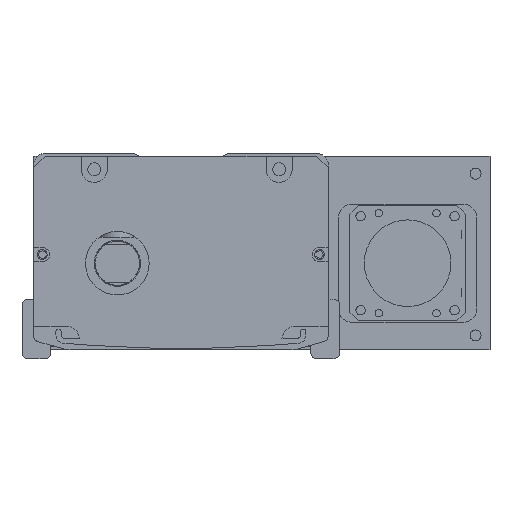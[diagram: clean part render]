
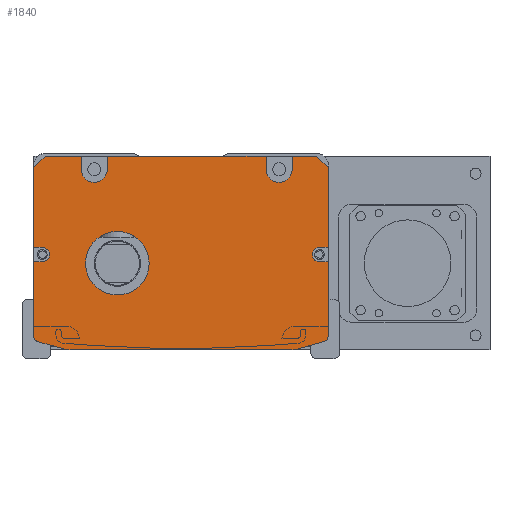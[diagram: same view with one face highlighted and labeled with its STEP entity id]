
A CAD part, front view. The second image highlights one B-rep face of the part: STEP entity #1840.
In plain terms, the highlighted planar face has unit normal (0, -1, 0).
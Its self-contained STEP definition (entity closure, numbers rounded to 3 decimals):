
#1840=ADVANCED_FACE('',(#4408,#4409),#2389,.F.);
#2389=PLANE('',#13989);
#2926=LINE('',#26900,#3723);
#2930=LINE('',#26909,#3727);
#2938=LINE('',#26936,#3735);
#2942=LINE('',#26945,#3739);
#2949=LINE('',#26961,#3746);
#2951=LINE('',#26966,#3748);
#2966=LINE('',#27009,#3763);
#2968=LINE('',#27017,#3765);
#2971=LINE('',#27021,#3768);
#2992=LINE('',#27089,#3789);
#2996=LINE('',#27098,#3793);
#3000=LINE('',#27107,#3797);
#3004=LINE('',#27116,#3801);
#3008=LINE('',#27132,#3805);
#3012=LINE('',#27138,#3809);
#3013=LINE('',#27139,#3810);
#3015=LINE('',#27155,#3812);
#3016=LINE('',#27156,#3813);
#3017=LINE('',#27157,#3814);
#3018=LINE('',#27158,#3815);
#3723=VECTOR('',#16511,1.);
#3727=VECTOR('',#16517,1.);
#3735=VECTOR('',#16539,1.);
#3739=VECTOR('',#16545,1.);
#3746=VECTOR('',#16554,1.);
#3748=VECTOR('',#16558,1.);
#3763=VECTOR('',#16597,1.);
#3765=VECTOR('',#16607,1.);
#3768=VECTOR('',#16612,1.);
#3789=VECTOR('',#16687,1.);
#3793=VECTOR('',#16693,1.);
#3797=VECTOR('',#16699,1.);
#3801=VECTOR('',#16705,1.);
#3805=VECTOR('',#16723,1.);
#3809=VECTOR('',#16727,1.);
#3810=VECTOR('',#16728,1.);
#3812=VECTOR('',#16752,1.);
#3813=VECTOR('',#16753,1.);
#3814=VECTOR('',#16754,1.);
#3815=VECTOR('',#16755,1.);
#4408=FACE_BOUND('',#5302,.T.);
#4409=FACE_BOUND('',#5303,.T.);
#5302=EDGE_LOOP('',(#7783,#7784,#7785,#7786,#7787,#7788,#7789,#7790,#7791,
#7792,#7793,#7794,#7795,#7796,#7797,#7798,#7799,#7800,#7801,#7802,#7803,
#7804,#7805,#7806,#7807,#7808,#7809,#7810));
#5303=EDGE_LOOP('',(#7811));
#7783=ORIENTED_EDGE('',*,*,#11792,.T.);
#7784=ORIENTED_EDGE('',*,*,#11669,.T.);
#7785=ORIENTED_EDGE('',*,*,#11779,.T.);
#7786=ORIENTED_EDGE('',*,*,#11696,.F.);
#7787=ORIENTED_EDGE('',*,*,#11733,.T.);
#7788=ORIENTED_EDGE('',*,*,#11698,.F.);
#7789=ORIENTED_EDGE('',*,*,#11784,.T.);
#7790=ORIENTED_EDGE('',*,*,#11685,.F.);
#7791=ORIENTED_EDGE('',*,*,#11730,.T.);
#7792=ORIENTED_EDGE('',*,*,#11689,.F.);
#7793=ORIENTED_EDGE('',*,*,#11783,.T.);
#7794=ORIENTED_EDGE('',*,*,#11673,.T.);
#7795=ORIENTED_EDGE('',*,*,#11793,.T.);
#7796=ORIENTED_EDGE('',*,*,#11763,.T.);
#7797=ORIENTED_EDGE('',*,*,#11791,.T.);
#7798=ORIENTED_EDGE('',*,*,#11759,.T.);
#7799=ORIENTED_EDGE('',*,*,#11794,.T.);
#7800=ORIENTED_EDGE('',*,*,#11716,.T.);
#7801=ORIENTED_EDGE('',*,*,#11719,.T.);
#7802=ORIENTED_EDGE('',*,*,#11722,.T.);
#7803=ORIENTED_EDGE('',*,*,#11723,.T.);
#7804=ORIENTED_EDGE('',*,*,#11679,.T.);
#7805=ORIENTED_EDGE('',*,*,#11726,.T.);
#7806=ORIENTED_EDGE('',*,*,#11681,.T.);
#7807=ORIENTED_EDGE('',*,*,#11795,.T.);
#7808=ORIENTED_EDGE('',*,*,#11771,.T.);
#7809=ORIENTED_EDGE('',*,*,#11790,.T.);
#7810=ORIENTED_EDGE('',*,*,#11767,.T.);
#7811=ORIENTED_EDGE('',*,*,#11735,.T.);
#10121=VERTEX_POINT('',#26901);
#10122=VERTEX_POINT('',#26902);
#10125=VERTEX_POINT('',#26910);
#10126=VERTEX_POINT('',#26911);
#10131=VERTEX_POINT('',#26922);
#10132=VERTEX_POINT('',#26924);
#10133=VERTEX_POINT('',#26928);
#10134=VERTEX_POINT('',#26929);
#10137=VERTEX_POINT('',#26937);
#10138=VERTEX_POINT('',#26938);
#10141=VERTEX_POINT('',#26946);
#10142=VERTEX_POINT('',#26947);
#10146=VERTEX_POINT('',#26956);
#10148=VERTEX_POINT('',#26960);
#10149=VERTEX_POINT('',#26964);
#10151=VERTEX_POINT('',#26967);
#10161=VERTEX_POINT('',#26997);
#10164=VERTEX_POINT('',#27002);
#10166=VERTEX_POINT('',#27008);
#10168=VERTEX_POINT('',#27014);
#10171=VERTEX_POINT('',#27040);
#10187=VERTEX_POINT('',#27087);
#10189=VERTEX_POINT('',#27090);
#10192=VERTEX_POINT('',#27097);
#10193=VERTEX_POINT('',#27099);
#10195=VERTEX_POINT('',#27105);
#10197=VERTEX_POINT('',#27108);
#10200=VERTEX_POINT('',#27115);
#10201=VERTEX_POINT('',#27117);
#11669=EDGE_CURVE('',#10121,#10122,#2926,.T.);
#11673=EDGE_CURVE('',#10125,#10126,#2930,.T.);
#11679=EDGE_CURVE('',#10132,#10131,#12852,.T.);
#11681=EDGE_CURVE('',#10133,#10134,#12853,.T.);
#11685=EDGE_CURVE('',#10137,#10138,#2938,.T.);
#11689=EDGE_CURVE('',#10141,#10142,#2942,.T.);
#11696=EDGE_CURVE('',#10148,#10146,#2949,.T.);
#11698=EDGE_CURVE('',#10149,#10151,#2951,.T.);
#11716=EDGE_CURVE('',#10161,#10164,#12860,.T.);
#11719=EDGE_CURVE('',#10164,#10166,#2966,.T.);
#11722=EDGE_CURVE('',#10166,#10168,#12862,.T.);
#11723=EDGE_CURVE('',#10168,#10132,#2968,.T.);
#11726=EDGE_CURVE('',#10131,#10133,#2971,.T.);
#11730=EDGE_CURVE('',#10137,#10142,#12865,.T.);
#11733=EDGE_CURVE('',#10148,#10151,#12868,.T.);
#11735=EDGE_CURVE('',#10171,#10171,#12869,.T.);
#11759=EDGE_CURVE('',#10189,#10187,#2992,.T.);
#11763=EDGE_CURVE('',#10193,#10192,#2996,.T.);
#11767=EDGE_CURVE('',#10197,#10195,#3000,.T.);
#11771=EDGE_CURVE('',#10201,#10200,#3004,.T.);
#11779=EDGE_CURVE('',#10122,#10146,#3008,.T.);
#11783=EDGE_CURVE('',#10141,#10125,#3012,.T.);
#11784=EDGE_CURVE('',#10149,#10138,#3013,.T.);
#11790=EDGE_CURVE('',#10200,#10197,#12883,.T.);
#11791=EDGE_CURVE('',#10192,#10189,#12884,.T.);
#11792=EDGE_CURVE('',#10195,#10121,#3015,.T.);
#11793=EDGE_CURVE('',#10126,#10193,#3016,.T.);
#11794=EDGE_CURVE('',#10187,#10161,#3017,.T.);
#11795=EDGE_CURVE('',#10134,#10201,#3018,.T.);
#12852=CIRCLE('',#13916,10.);
#12853=CIRCLE('',#13918,2.);
#12860=CIRCLE('',#13934,2.);
#12862=CIRCLE('',#13938,10.);
#12865=CIRCLE('',#13946,4.5);
#12868=CIRCLE('',#13951,4.5);
#12869=CIRCLE('',#13954,11.);
#12883=CIRCLE('',#13985,2.5);
#12884=CIRCLE('',#13987,2.5);
#13916=AXIS2_PLACEMENT_3D('',#26923,#16526,#16527);
#13918=AXIS2_PLACEMENT_3D('',#26927,#16531,#16532);
#13934=AXIS2_PLACEMENT_3D('',#27003,#16591,#16592);
#13938=AXIS2_PLACEMENT_3D('',#27015,#16603,#16604);
#13946=AXIS2_PLACEMENT_3D('',#27029,#16624,#16625);
#13951=AXIS2_PLACEMENT_3D('',#27035,#16634,#16635);
#13954=AXIS2_PLACEMENT_3D('',#27039,#16641,#16642);
#13985=AXIS2_PLACEMENT_3D('',#27151,#16744,#16745);
#13987=AXIS2_PLACEMENT_3D('',#27153,#16748,#16749);
#13989=AXIS2_PLACEMENT_3D('',#27159,#16756,#16757);
#16511=DIRECTION('',(-0.707,0.,0.707));
#16517=DIRECTION('',(-0.707,0.,-0.707));
#16526=DIRECTION('',(0.,-1.,0.));
#16527=DIRECTION('',(0.,0.,-1.));
#16531=DIRECTION('',(0.,-1.,0.));
#16532=DIRECTION('',(0.,0.,-1.));
#16539=DIRECTION('',(0.,0.,1.));
#16545=DIRECTION('',(0.,0.,-1.));
#16554=DIRECTION('',(0.,0.,1.));
#16558=DIRECTION('',(0.,0.,-1.));
#16591=DIRECTION('',(0.,-1.,0.));
#16592=DIRECTION('',(0.,0.,1.));
#16597=DIRECTION('',(0.963,0.,-0.269));
#16603=DIRECTION('',(0.,-1.,0.));
#16604=DIRECTION('',(0.,0.,1.));
#16607=DIRECTION('',(1.,0.,0.));
#16612=DIRECTION('',(0.963,0.,0.269));
#16624=DIRECTION('',(0.,1.,0.));
#16625=DIRECTION('',(0.,0.,1.));
#16634=DIRECTION('',(0.,1.,0.));
#16635=DIRECTION('',(0.,0.,1.));
#16641=DIRECTION('',(0.,1.,0.));
#16642=DIRECTION('',(0.,0.,1.));
#16687=DIRECTION('',(-1.,0.,0.));
#16693=DIRECTION('',(1.,0.,0.));
#16699=DIRECTION('',(1.,0.,0.));
#16705=DIRECTION('',(-1.,0.,0.));
#16723=DIRECTION('',(-1.,0.,0.));
#16727=DIRECTION('',(-1.,0.,0.));
#16728=DIRECTION('',(-1.,0.,0.));
#16744=DIRECTION('',(0.,1.,0.));
#16745=DIRECTION('',(0.,0.,1.));
#16748=DIRECTION('',(0.,1.,0.));
#16749=DIRECTION('',(0.,0.,1.));
#16752=DIRECTION('',(0.,0.,1.));
#16753=DIRECTION('',(0.,0.,-1.));
#16754=DIRECTION('',(0.,0.,-1.));
#16755=DIRECTION('',(0.,0.,1.));
#16756=DIRECTION('',(0.,1.,0.));
#16757=DIRECTION('',(-1.,0.,0.));
#26900=CARTESIAN_POINT('',(43.808,-367.5,-1.));
#26901=CARTESIAN_POINT('',(47.808,-367.5,-5.));
#26902=CARTESIAN_POINT('',(43.808,-367.5,-1.));
#26909=CARTESIAN_POINT('',(-54.192,-367.5,-5.));
#26910=CARTESIAN_POINT('',(-50.192,-367.5,-1.));
#26911=CARTESIAN_POINT('',(-54.192,-367.5,-5.));
#26922=CARTESIAN_POINT('',(37.424,-367.5,-67.631));
#26923=CARTESIAN_POINT('',(34.733,-367.5,-58.));
#26924=CARTESIAN_POINT('',(34.733,-367.5,-68.));
#26927=CARTESIAN_POINT('',(45.808,-367.5,-63.212));
#26928=CARTESIAN_POINT('',(46.346,-367.5,-65.138));
#26929=CARTESIAN_POINT('',(47.808,-367.5,-63.212));
#26936=CARTESIAN_POINT('',(-28.692,-367.5,-3.5));
#26937=CARTESIAN_POINT('',(-28.692,-367.5,-5.5));
#26938=CARTESIAN_POINT('',(-28.692,-367.5,-1.));
#26945=CARTESIAN_POINT('',(-37.692,-367.5,-1.));
#26946=CARTESIAN_POINT('',(-37.692,-367.5,-1.));
#26947=CARTESIAN_POINT('',(-37.692,-367.5,-5.5));
#26956=CARTESIAN_POINT('',(35.308,-367.5,-1.));
#26960=CARTESIAN_POINT('',(35.308,-367.5,-5.5));
#26961=CARTESIAN_POINT('',(35.308,-367.5,-1.));
#26964=CARTESIAN_POINT('',(26.308,-367.5,-1.));
#26966=CARTESIAN_POINT('',(26.308,-367.5,-1.));
#26967=CARTESIAN_POINT('',(26.308,-367.5,-5.5));
#26997=CARTESIAN_POINT('',(-54.192,-367.5,-63.212));
#27002=CARTESIAN_POINT('',(-52.731,-367.5,-65.138));
#27003=CARTESIAN_POINT('',(-52.192,-367.5,-63.212));
#27008=CARTESIAN_POINT('',(-43.809,-367.5,-67.631));
#27009=CARTESIAN_POINT('',(-55.807,-367.5,-64.279));
#27014=CARTESIAN_POINT('',(-41.118,-367.5,-68.));
#27015=CARTESIAN_POINT('',(-41.118,-367.5,-58.));
#27017=CARTESIAN_POINT('',(-54.692,-367.5,-68.));
#27021=CARTESIAN_POINT('',(49.422,-367.5,-64.279));
#27029=CARTESIAN_POINT('',(-33.192,-367.5,-5.5));
#27035=CARTESIAN_POINT('',(30.808,-367.5,-5.5));
#27039=CARTESIAN_POINT('',(-25.192,-367.5,-38.));
#27040=CARTESIAN_POINT('',(-25.192,-367.5,-27.));
#27087=CARTESIAN_POINT('',(-54.192,-367.5,-37.5));
#27089=CARTESIAN_POINT('',(-3.192,-367.5,-37.5));
#27090=CARTESIAN_POINT('',(-51.192,-367.5,-37.5));
#27097=CARTESIAN_POINT('',(-51.192,-367.5,-32.5));
#27098=CARTESIAN_POINT('',(-3.192,-367.5,-32.5));
#27099=CARTESIAN_POINT('',(-54.192,-367.5,-32.5));
#27105=CARTESIAN_POINT('',(47.808,-367.5,-32.5));
#27107=CARTESIAN_POINT('',(-3.192,-367.5,-32.5));
#27108=CARTESIAN_POINT('',(44.808,-367.5,-32.5));
#27115=CARTESIAN_POINT('',(44.808,-367.5,-37.5));
#27116=CARTESIAN_POINT('',(-3.192,-367.5,-37.5));
#27117=CARTESIAN_POINT('',(47.808,-367.5,-37.5));
#27132=CARTESIAN_POINT('',(-3.192,-367.5,-1.));
#27138=CARTESIAN_POINT('',(-54.192,-367.5,-1.));
#27139=CARTESIAN_POINT('',(-54.192,-367.5,-1.));
#27151=CARTESIAN_POINT('',(44.808,-367.5,-35.));
#27153=CARTESIAN_POINT('',(-51.192,-367.5,-35.));
#27155=CARTESIAN_POINT('',(47.808,-367.5,-1.));
#27156=CARTESIAN_POINT('',(-54.192,-367.5,-62.));
#27157=CARTESIAN_POINT('',(-54.192,-367.5,-62.));
#27158=CARTESIAN_POINT('',(47.808,-367.5,-1.));
#27159=CARTESIAN_POINT('',(-3.192,-367.5,-1.));
